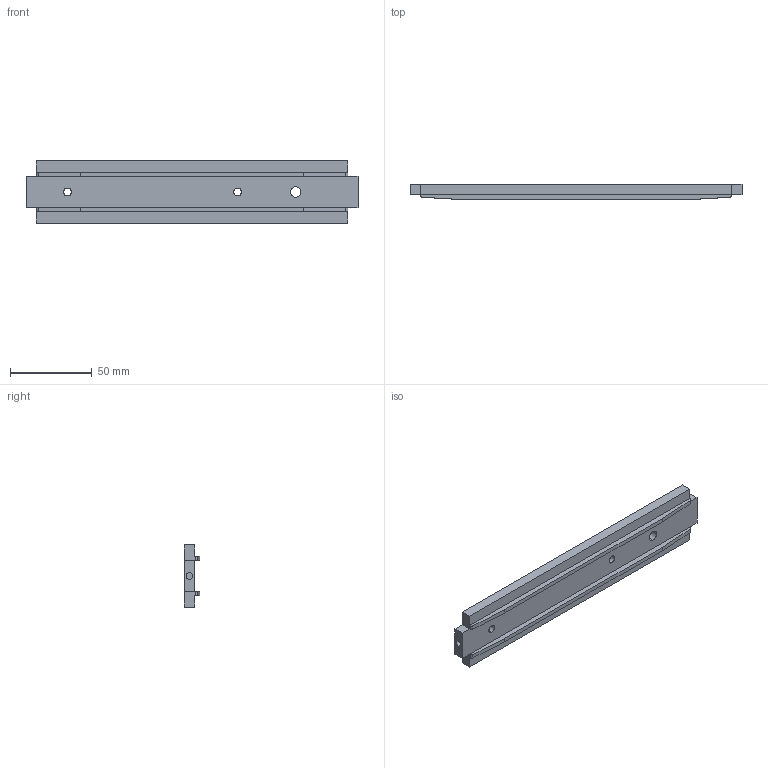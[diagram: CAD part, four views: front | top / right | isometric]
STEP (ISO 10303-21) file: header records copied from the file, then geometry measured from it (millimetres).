
FILE_DESCRIPTION (( 'STEP AP203' ), '1' );
FILE_NAME ('Camera Plate.STEP', '2026-01-29T02:18:33', ( '' ), ( '' ), 'SwSTEP 2.0', 'SolidWorks 2019', '' );
FILE_SCHEMA (( 'CONFIG_CONTROL_DESIGN' ));
Length unit declared in the file: inch
Products named in the file (1): Camera Plate
Bounding box: 203.2 x 9.53 x 38.1 mm (x, y, z)
Volume: 49888.1 mm3; surface area: 20657.8 mm2
Topology: 1 solids, 1 shells, 46 faces, 122 edges, 80 vertices
Faces by surface type: plane 28, cylinder 18
Entity records: 1521 total; most frequent: DIRECTION 252, CARTESIAN_POINT 249, ORIENTED_EDGE 244, EDGE_CURVE 122, VECTOR 86, LINE 86, AXIS2_PLACEMENT_3D 83, VERTEX_POINT 80
